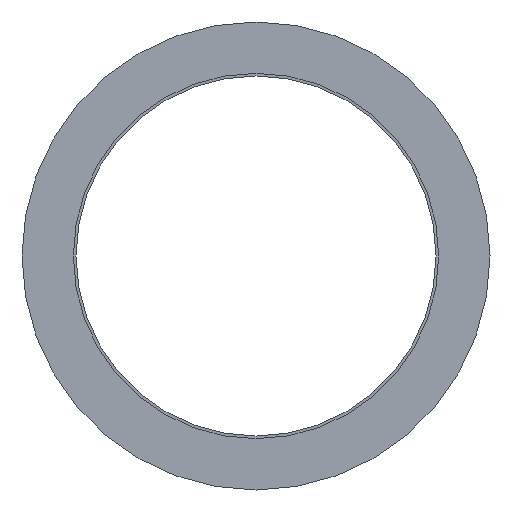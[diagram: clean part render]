
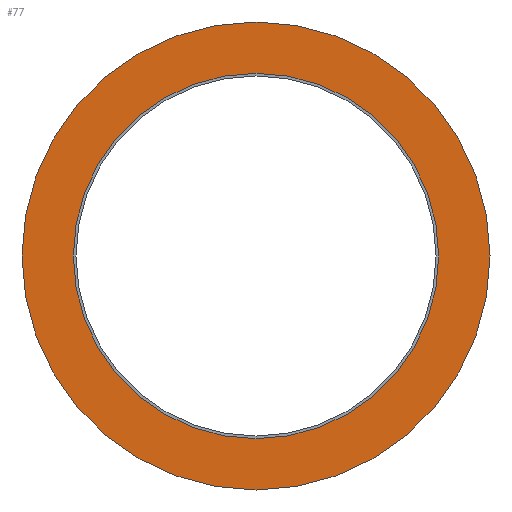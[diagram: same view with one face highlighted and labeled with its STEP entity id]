
A CAD part, left-side view. The second image highlights one B-rep face of the part: STEP entity #77.
In plain terms, the highlighted planar face has unit normal (-1, 0, 0).
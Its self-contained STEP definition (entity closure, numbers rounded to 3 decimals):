
#5 = CARTESIAN_POINT ( 'NONE',  ( -1.927, -0.038, 0. ) ) ;
#15 = AXIS2_PLACEMENT_3D ( 'NONE', #103, #194, #292 ) ;
#27 = AXIS2_PLACEMENT_3D ( 'NONE', #372, #130, #136 ) ;
#40 = VERTEX_POINT ( 'NONE', #240 ) ;
#53 = DIRECTION ( 'NONE',  ( 1., 0., 0. ) ) ;
#65 = CARTESIAN_POINT ( 'NONE',  ( -1.927, -0.038, 5.075 ) ) ;
#66 = DIRECTION ( 'NONE',  ( 0., 0., -1. ) ) ;
#77 = ADVANCED_FACE ( 'NONE', ( #245, #282 ), #114, .T. ) ;
#78 = DIRECTION ( 'NONE',  ( 0., 0., -1. ) ) ;
#82 = CIRCLE ( 'NONE', #27, 5.075 ) ;
#84 = AXIS2_PLACEMENT_3D ( 'NONE', #340, #53, #78 ) ;
#100 = ORIENTED_EDGE ( 'NONE', *, *, #333, .T. ) ;
#103 = CARTESIAN_POINT ( 'NONE',  ( -1.927, -0.038, 0. ) ) ;
#104 = EDGE_CURVE ( 'NONE', #40, #135, #223, .T. ) ;
#112 = EDGE_CURVE ( 'NONE', #135, #40, #315, .T. ) ;
#114 = PLANE ( 'NONE',  #15 ) ;
#122 = EDGE_LOOP ( 'NONE', ( #308, #202 ) ) ;
#128 = DIRECTION ( 'NONE',  ( 1., 0., 0. ) ) ;
#129 = DIRECTION ( 'NONE',  ( 1., 0., 0. ) ) ;
#130 = DIRECTION ( 'NONE',  ( 1., 0., 0. ) ) ;
#135 = VERTEX_POINT ( 'NONE', #227 ) ;
#136 = DIRECTION ( 'NONE',  ( 0., 0., -1. ) ) ;
#184 = EDGE_CURVE ( 'NONE', #338, #280, #337, .T. ) ;
#194 = DIRECTION ( 'NONE',  ( -1., 0., 0. ) ) ;
#201 = AXIS2_PLACEMENT_3D ( 'NONE', #5, #129, #66 ) ;
#202 = ORIENTED_EDGE ( 'NONE', *, *, #112, .F. ) ;
#210 = CARTESIAN_POINT ( 'NONE',  ( -1.927, -0.038, -5.075 ) ) ;
#223 = CIRCLE ( 'NONE', #380, 6.5 ) ;
#227 = CARTESIAN_POINT ( 'NONE',  ( -1.927, -0.038, 6.5 ) ) ;
#240 = CARTESIAN_POINT ( 'NONE',  ( -1.927, -0.038, -6.5 ) ) ;
#245 = FACE_BOUND ( 'NONE', #274, .T. ) ;
#259 = CARTESIAN_POINT ( 'NONE',  ( -1.927, -0.038, 0. ) ) ;
#274 = EDGE_LOOP ( 'NONE', ( #100, #377 ) ) ;
#280 = VERTEX_POINT ( 'NONE', #210 ) ;
#282 = FACE_OUTER_BOUND ( 'NONE', #122, .T. ) ;
#292 = DIRECTION ( 'NONE',  ( 0., 0., 1. ) ) ;
#308 = ORIENTED_EDGE ( 'NONE', *, *, #104, .F. ) ;
#315 = CIRCLE ( 'NONE', #201, 6.5 ) ;
#333 = EDGE_CURVE ( 'NONE', #280, #338, #82, .T. ) ;
#337 = CIRCLE ( 'NONE', #84, 5.075 ) ;
#338 = VERTEX_POINT ( 'NONE', #65 ) ;
#340 = CARTESIAN_POINT ( 'NONE',  ( -1.927, -0.038, 0. ) ) ;
#372 = CARTESIAN_POINT ( 'NONE',  ( -1.927, -0.038, 0. ) ) ;
#377 = ORIENTED_EDGE ( 'NONE', *, *, #184, .T. ) ;
#380 = AXIS2_PLACEMENT_3D ( 'NONE', #259, #128, #390 ) ;
#390 = DIRECTION ( 'NONE',  ( 0., 0., -1. ) ) ;
